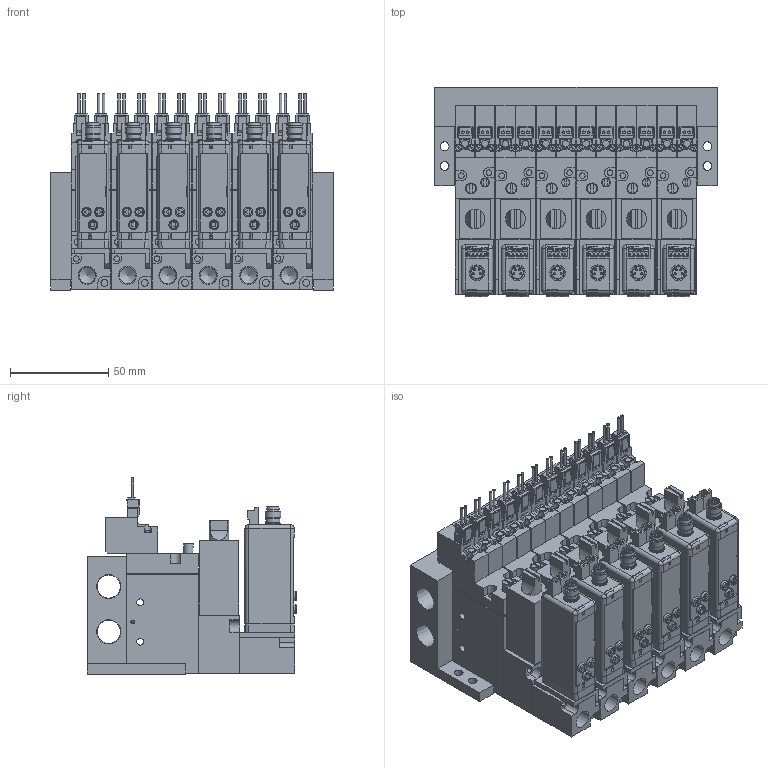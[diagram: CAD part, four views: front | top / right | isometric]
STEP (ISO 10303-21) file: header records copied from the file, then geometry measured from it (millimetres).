
FILE_DESCRIPTION(('STEP AP203'),'1');
FILE_NAME('BMPV32M2N20225BL606.stp','2025-06-16T09:01:30',(' '),(' '),'Spatial InterOp 3D',' ',' ');
FILE_SCHEMA(('CONFIG_CONTROL_DESIGN'));
Length unit declared in the file: millimetre
Products named in the file (76): BMPV32M2N20225BL606; MVS-202; ___-3(Rc); Filter Assy; __; _____; ___ ___; MB06; MB BRACKET; ___; upper plate-A; ______; ____; VACUUM VALVE FUNCTION MPV42-A
Assembly tree (75 placements, depth 2):
  BMPV32M2N20225BL606
    MVS-202
    ___-3(Rc)
    Filter Assy
    __
    _____
    ___ ___
    MVS-202
    ___-3(Rc)
    Filter Assy
    __
    _____
    ___ ___
    MVS-202
    ___-3(Rc)
    Filter Assy
    __
    _____
    ___ ___
    MVS-202
    ___-3(Rc)
    Filter Assy
    __
    _____
    ___ ___
    MVS-202
    ___-3(Rc)
    Filter Assy
    __
    _____
    ___ ___
    MB06
    MB BRACKET
    MB BRACKET
    MVS-202
    ___-3(Rc)
    Filter Assy
    __
    _____
    ___ ___
    ___
    upper plate-A
    ______
    ____
    VACUUM VALVE FUNCTION MPV42-A
    VACUUM VALVE FUNCTION MPV42-A
    ___
    upper plate-A
    ______
    ____
    VACUUM VALVE FUNCTION MPV42-A
    VACUUM VALVE FUNCTION MPV42-A
    ___
    upper plate-A
    ______
    ____
    VACUUM VALVE FUNCTION MPV42-A
    VACUUM VALVE FUNCTION MPV42-A
    ___
    upper plate-A
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Bounding box: 143.5 x 106.6 x 99.75 mm (x, y, z)
Volume: 772290.5 mm3; surface area: 271358.4 mm2
Topology: 75 solids, 99 shells, 4625 faces, 11866 edges, 7786 vertices
Faces by surface type: plane 3783, cylinder 696, cone 104, sphere 24, torus 18
Full cylindrical faces by diameter (mm): 1 x24, 1.4 x24, 1.5 x6, 1.8 x12, 2 x12, 2.5 x16, 2.8 x24, 3 x24, 3.5 x64, 4 x6, 4.2 x6, 4.5 x28, 4.8 x18, 5 x18, 5.5 x6, 5.8 x12, 6 x6, 6.5 x24, 7 x6, 7.2 x6, 7.9 x6, 8 x12, 8.2 x6, 8.759 x6, 11.776 x2
Entity records: 139602 total; most frequent: CARTESIAN_POINT 24387, ORIENTED_EDGE 22360, DIRECTION 22254, EDGE_CURVE 11180, LINE 9316, VECTOR 9316, VERTEX_POINT 7666, AXIS2_PLACEMENT_3D 6469
